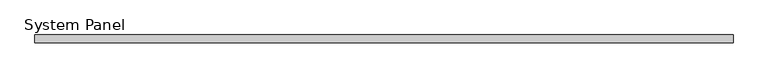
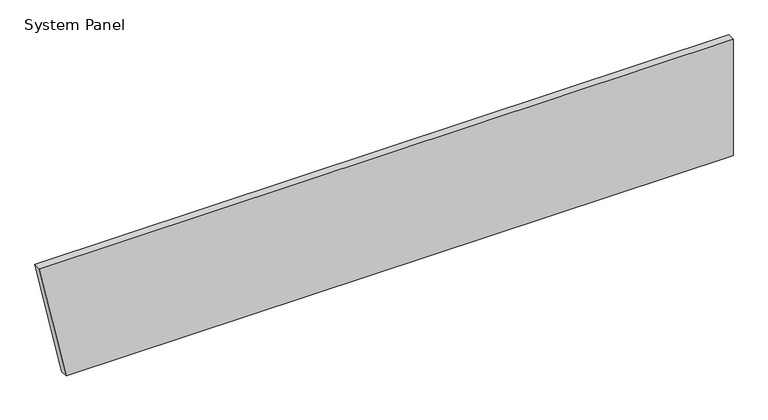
"""IFC4 building model written with IfcOpenShell, lengths in millimetres: plate geometry, System Panel : Equitilt_FlameGuard_75mm_Plain_Surfmist."""

import ifcopenshell
import ifcopenshell.guid

model = None  # the IFC model being written
_history = None  # IfcOwnerHistory: only IFC2X3 demands one
_inside = {}  # id of a spatial element -> (the spatial element, [elements in it])
_under = {}  # id of a project, library or spatial element -> (it, [spatial elements below it])
_declared = {}  # id of a project -> (the project, [libraries it declares])
_typed = {}  # id of a type object -> (the type object, [elements of that type])
_made_of = {}  # id of a material, layer set ... -> (it, [elements and type objects made of it])


def new_model(schema):
    """Start an empty IFC model of exactly this schema.

    Asked for "IFC4X3", IfcOpenShell would pick the latest addendum, in which some entities
    have other attributes; the version numbers below select the first issue.
    IFC2X3 requires an IfcOwnerHistory on every rooted entity: one is made here for all.
    """
    global model, _history
    if schema == "IFC4X3":
        model = ifcopenshell.file(schema_version=(4, 3, 0, 0))
    else:
        model = ifcopenshell.file(schema=schema)
    _inside.clear()
    _under.clear()
    _declared.clear()
    _typed.clear()
    _made_of.clear()
    _history = None
    if model.schema == "IFC2X3":
        org = make("IfcOrganization", Name="unknown")
        user = make(
            "IfcPersonAndOrganization",
            ThePerson=make("IfcPerson", FamilyName="unknown"),
            TheOrganization=org,
        )
        app = make(
            "IfcApplication",
            ApplicationDeveloper=org,
            Version="unknown",
            ApplicationFullName="unknown",
            ApplicationIdentifier="unknown",
        )
        _history = make(
            "IfcOwnerHistory",
            OwningUser=user,
            OwningApplication=app,
            ChangeAction="ADDED",
            CreationDate=0,
        )
    return model


def make(cls, **values):
    """One entity of the class cls with the attributes given. An attribute that is None is left unset."""
    return model.create_entity(
        cls, **{name: value for name, value in values.items() if value is not None}
    )


def rooted(cls, **values):
    """An entity with a GlobalId (a new one), such as an element, a storey or a relation."""
    return make(cls, GlobalId=ifcopenshell.guid.new(), OwnerHistory=_history, **values)


def si_unit(unit_type, name, prefix=None):
    """IfcSIUnit, for example si_unit("LENGTHUNIT", "METRE", prefix="MILLI")."""
    return make("IfcSIUnit", UnitType=unit_type, Prefix=prefix, Name=name)


def assignment(units):
    """IfcUnitAssignment: the units of a project."""
    return None if units is None else make("IfcUnitAssignment", Units=units)


def point(xyz):
    """IfcCartesianPoint."""
    return None if xyz is None else make("IfcCartesianPoint", Coordinates=xyz)


def direction(xyz):
    """IfcDirection."""
    return None if xyz is None else make("IfcDirection", DirectionRatios=xyz)


def frame(location, z_axis=None, x_axis=None):
    """IfcAxis2Placement3D, a coordinate frame: its origin and axes. An axis left out is left unset."""
    return make(
        "IfcAxis2Placement3D",
        Location=point(location),
        Axis=direction(z_axis),
        RefDirection=direction(x_axis),
    )


def origin():
    """The frame at (0, 0, 0) with its axes left unset."""
    return frame((0.0, 0.0, 0.0))


def place(relative_to, where):
    """IfcLocalPlacement: puts the frame where relative to a parent placement (None: the world)."""
    return make(
        "IfcLocalPlacement", PlacementRelTo=relative_to, RelativePlacement=where
    )


def context(
    kind, dimensions, precision=None, world=None, true_north=None, identifier=None
):
    """IfcGeometricRepresentationContext, for example the 3D "Model" context."""
    return make(
        "IfcGeometricRepresentationContext",
        ContextIdentifier=identifier,
        ContextType=kind,
        CoordinateSpaceDimension=dimensions,
        Precision=precision,
        WorldCoordinateSystem=world,
        TrueNorth=true_north,
    )


def project(units=None, contexts=None):
    """IfcProject with its units and contexts."""
    return rooted(
        "IfcProject",
        Name="project",
        RepresentationContexts=contexts,
        UnitsInContext=assignment(units),
    )


def spatial(cls, under=None, at=None, **own):
    """A site, building, storey or space (cls), placed at a placement, below another one or the project."""
    s = rooted(cls, ObjectPlacement=at, **own)
    if under is not None:
        _under.setdefault(under.id(), (under, []))[1].append(s)
    return s


def polyline(points):
    """IfcPolyline through the points."""
    return make("IfcPolyline", Points=[point(p) for p in points])


def outline(outer, holes=None, kind="AREA"):
    """IfcArbitraryClosedProfileDef: a profile drawn as a closed curve; with holes, ...WithVoids."""
    if holes is None:
        return make("IfcArbitraryClosedProfileDef", ProfileType=kind, OuterCurve=outer)
    return make(
        "IfcArbitraryProfileDefWithVoids",
        ProfileType=kind,
        OuterCurve=outer,
        InnerCurves=holes,
    )


def extrude(swept, where, along, depth):
    """IfcExtrudedAreaSolid: the profile swept, set in the frame where, extruded along a direction by depth."""
    return make(
        "IfcExtrudedAreaSolid",
        SweptArea=swept,
        Position=where,
        ExtrudedDirection=direction(along),
        Depth=depth,
    )


def shape(context_of_items, identifier, shape_type, items):
    """IfcShapeRepresentation: the items that make up one representation, for example the "Body"."""
    return make(
        "IfcShapeRepresentation",
        ContextOfItems=context_of_items,
        RepresentationIdentifier=identifier,
        RepresentationType=shape_type,
        Items=items,
    )


def source(mapping_origin, context_of_items, identifier, shape_type, items):
    """IfcRepresentationMap: a shape defined once, which mapped items show again and again."""
    return make(
        "IfcRepresentationMap",
        MappingOrigin=mapping_origin,
        MappedRepresentation=shape(context_of_items, identifier, shape_type, items),
    )


def transform(
    local_origin,
    x_axis=None,
    y_axis=None,
    z_axis=None,
    scale=None,
    scale2=None,
    scale3=None,
    uniform=True,
):
    """IfcCartesianTransformationOperator3D, or its non-uniform kind. x_axis, y_axis, z_axis: its Axis1, 2, 3."""
    if uniform:
        return make(
            "IfcCartesianTransformationOperator3D",
            Axis1=direction(x_axis),
            Axis2=direction(y_axis),
            LocalOrigin=point(local_origin),
            Scale=scale,
            Axis3=direction(z_axis),
        )
    return make(
        "IfcCartesianTransformationOperator3DnonUniform",
        Axis1=direction(x_axis),
        Axis2=direction(y_axis),
        LocalOrigin=point(local_origin),
        Scale=scale,
        Axis3=direction(z_axis),
        Scale2=scale2,
        Scale3=scale3,
    )


def mapped(mapping_source, mapping_target):
    """IfcMappedItem: shows the shape of a source again, moved by a transform."""
    return make(
        "IfcMappedItem", MappingSource=mapping_source, MappingTarget=mapping_target
    )


def made_of(thing, what):
    """Note that an element or type object is made of a material, layer set ...; save() writes the relation."""
    if what is not None:
        _made_of.setdefault(what.id(), (what, []))[1].append(thing)
    return thing


def element(
    cls,
    number,
    at=None,
    inside=None,
    cuts=None,
    type_object=None,
    material=None,
    context=None,
    identifier="Body",
    shape_type=None,
    held_by="IfcProductDefinitionShape",
    body=None,
    shapes=None,
    **own,
):
    """One element of the class cls, such as IfcWall. Its Tag is "e" and its number.

    at: its placement. inside: the storey or other place that contains it. cuts: it is an
    opening in that element (IfcRelVoidsElement). A single representation is given by context,
    identifier, shape_type and body (its items); several are given by shapes. held_by: the class
    of the entity that holds the representations. save() writes the other relations.
    """
    e = rooted(cls, Tag="e%d" % number, ObjectPlacement=at, **own)
    if body is not None:
        shapes = [shape(context, identifier, shape_type, body)]
    if shapes is not None:
        e.Representation = make(held_by, Representations=shapes)
    if inside is not None:
        _inside.setdefault(inside.id(), (inside, []))[1].append(e)
    if cuts is not None:
        rooted(
            "IfcRelVoidsElement", RelatingBuildingElement=cuts, RelatedOpeningElement=e
        )
    if type_object is not None:
        _typed.setdefault(type_object.id(), (type_object, []))[1].append(e)
    return made_of(e, material)


def aggregate(whole, parts):
    """IfcRelAggregates: a whole, such as a stair, and the parts it consists of."""
    return rooted("IfcRelAggregates", RelatingObject=whole, RelatedObjects=parts)


def save(model, path):
    """Write the relations noted so far, then the file.

    IfcRelAggregates (storeys below a building ...), IfcRelContainedInSpatialStructure (elements
    in a storey), IfcRelDefinesByType, IfcRelAssociatesMaterial and IfcRelDeclares: one each for
    every whole, place, type object, material and project.
    """
    for whole, parts in _under.values():
        aggregate(whole, parts)
    for where, things in _inside.values():
        rooted(
            "IfcRelContainedInSpatialStructure",
            RelatedElements=things,
            RelatingStructure=where,
        )
    for kind, things in _typed.values():
        rooted("IfcRelDefinesByType", RelatedObjects=things, RelatingType=kind)
    for what, things in _made_of.values():
        rooted("IfcRelAssociatesMaterial", RelatedObjects=things, RelatingMaterial=what)
    for by, libraries in _declared.values():
        rooted("IfcRelDeclares", RelatingContext=by, RelatedDefinitions=libraries)
    model.write(path)


def system_panel_121b9ab8(model_context):
    return source(origin(), model_context, "Body", "SweptSolid", [
        extrude(outline(polyline([(0.0, -3125.4358309), (0.0, 3386.3074928), (1200.0, 3386.3074928), (1200.0, -3386.3074928), (0.0, -3125.4358309)])), frame((0.0, -75.0, 0.0), z_axis=(0.0, 1.0, 0.0), x_axis=(0.0, 0.0, 1.0)), (0.0, 0.0, 1.0), 75.0),
    ])


if __name__ == "__main__":
    model = new_model("IFC4")
    model_context = context("Model", 3, world=origin())
    ifc_project = project(units=[si_unit("LENGTHUNIT", "METRE", prefix="MILLI")], contexts=[model_context])
    site = spatial("IfcSite", under=ifc_project)
    building = spatial("IfcBuilding", under=site)
    placement = place(None, origin())
    system_panel_shape = system_panel_121b9ab8(model_context)
    element("IfcPlate", 1, ObjectType="System Panel : Equitilt_FlameGuard_75mm_Plain_Surfmist", at=placement, inside=building, context=model_context, shape_type="MappedRepresentation", body=[
        mapped(system_panel_shape, transform((0.0, 0.0, 0.0), x_axis=(1.0, 0.0, 0.0), y_axis=(0.0, 1.0, 0.0), z_axis=(0.0, 0.0, 1.0))),
    ])
    save(model, "model.ifc")
